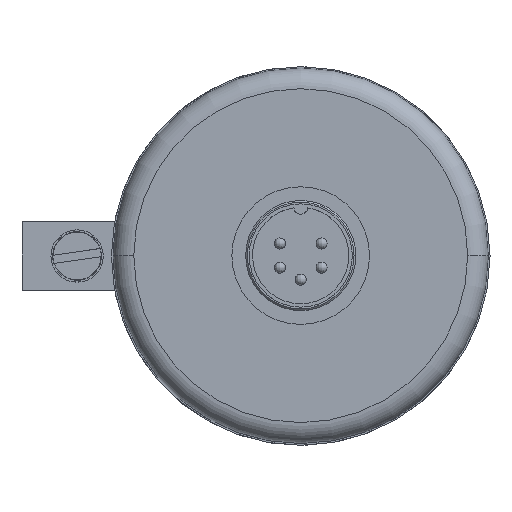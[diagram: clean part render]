
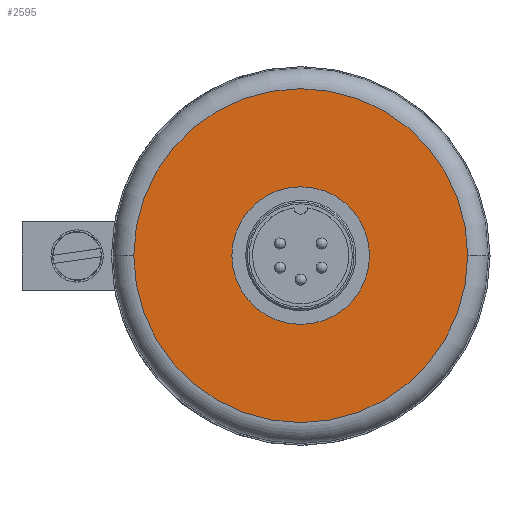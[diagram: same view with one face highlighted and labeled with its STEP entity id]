
A CAD part, top view. The second image highlights one B-rep face of the part: STEP entity #2595.
In plain terms, the highlighted planar face has unit normal (0, 0, 1).
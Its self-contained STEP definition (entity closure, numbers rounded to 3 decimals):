
#57 = AXIS2_PLACEMENT_3D ( 'NONE', #6227, #6228, #6229 ) ;
#820 = CARTESIAN_POINT ( 'NONE',  ( -1.373, -8.945, 18.3 ) ) ;
#821 = CARTESIAN_POINT ( 'NONE',  ( 1.373, -8.945, 18.3 ) ) ;
#832 = CARTESIAN_POINT ( 'NONE',  ( -24.255, 0., 18.3 ) ) ;
#834 = CARTESIAN_POINT ( 'NONE',  ( 24.255, 0., 18.3 ) ) ;
#1119 = EDGE_LOOP ( 'NONE', ( #6038, #6039 ) ) ;
#2595 = ADVANCED_FACE ( 'NONE', ( #6201, #6217 ), #6218, .T. ) ;
#2786 = EDGE_CURVE ( 'NONE', #5709, #5711, #3476, .T. ) ;
#2818 = EDGE_CURVE ( 'NONE', #5698, #5697, #3487, .T. ) ;
#2819 = EDGE_CURVE ( 'NONE', #5697, #5698, #3481, .T. ) ;
#2820 = EDGE_CURVE ( 'NONE', #5711, #5709, #3489, .T. ) ;
#3476 = CIRCLE ( 'NONE', #3478, 24.255 ) ;
#3478 = AXIS2_PLACEMENT_3D ( 'NONE', #5010, #5011, #5012 ) ;
#3481 = CIRCLE ( 'NONE', #3490, 2. ) ;
#3487 = CIRCLE ( 'NONE', #3488, 9.05 ) ;
#3488 = AXIS2_PLACEMENT_3D ( 'NONE', #3541, #3542, #3543 ) ;
#3489 = CIRCLE ( 'NONE', #3492, 24.255 ) ;
#3490 = AXIS2_PLACEMENT_3D ( 'NONE', #3544, #3545, #3546 ) ;
#3492 = AXIS2_PLACEMENT_3D ( 'NONE', #3547, #3548, #3549 ) ;
#3541 = CARTESIAN_POINT ( 'NONE',  ( 0., 0., 18.3 ) ) ;
#3542 = DIRECTION ( 'NONE',  ( 0., 0., 1. ) ) ;
#3543 = DIRECTION ( 'NONE',  ( 1., 0., 0. ) ) ;
#3544 = CARTESIAN_POINT ( 'NONE',  ( 0., -10.4, 18.3 ) ) ;
#3545 = DIRECTION ( 'NONE',  ( 0., 0., -1. ) ) ;
#3546 = DIRECTION ( 'NONE',  ( 1., 0., 0. ) ) ;
#3547 = CARTESIAN_POINT ( 'NONE',  ( 0., 0., 18.3 ) ) ;
#3548 = DIRECTION ( 'NONE',  ( 0., 0., -1. ) ) ;
#3549 = DIRECTION ( 'NONE',  ( -1., 0., 0. ) ) ;
#5010 = CARTESIAN_POINT ( 'NONE',  ( 0., 0., 18.3 ) ) ;
#5011 = DIRECTION ( 'NONE',  ( 0., 0., -1. ) ) ;
#5012 = DIRECTION ( 'NONE',  ( -1., 0., 0. ) ) ;
#5697 = VERTEX_POINT ( 'NONE', #820 ) ;
#5698 = VERTEX_POINT ( 'NONE', #821 ) ;
#5709 = VERTEX_POINT ( 'NONE', #832 ) ;
#5711 = VERTEX_POINT ( 'NONE', #834 ) ;
#5988 = EDGE_LOOP ( 'NONE', ( #6040, #6041 ) ) ;
#6038 = ORIENTED_EDGE ( 'NONE', *, *, #2818, .F. ) ;
#6039 = ORIENTED_EDGE ( 'NONE', *, *, #2819, .F. ) ;
#6040 = ORIENTED_EDGE ( 'NONE', *, *, #2786, .F. ) ;
#6041 = ORIENTED_EDGE ( 'NONE', *, *, #2820, .F. ) ;
#6201 = FACE_BOUND ( 'NONE', #1119, .T. ) ;
#6217 = FACE_OUTER_BOUND ( 'NONE', #5988, .T. ) ;
#6218 = PLANE ( 'NONE',  #57 ) ;
#6227 = CARTESIAN_POINT ( 'NONE',  ( 0., 0., 18.3 ) ) ;
#6228 = DIRECTION ( 'NONE',  ( 0., 0., 1. ) ) ;
#6229 = DIRECTION ( 'NONE',  ( 1., 0., 0. ) ) ;
